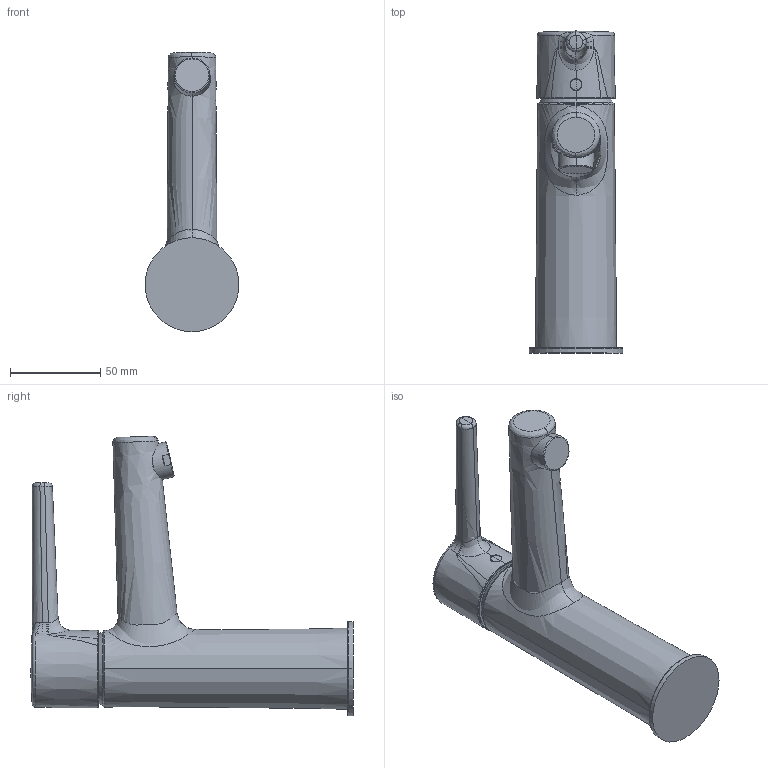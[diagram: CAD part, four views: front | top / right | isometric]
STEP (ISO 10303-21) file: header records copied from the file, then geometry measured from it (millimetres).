
FILE_DESCRIPTION((''),'2;1');
FILE_NAME('509435_S','2020-04-30T10:32:04',('DB991'),(''),'CREO PARAMETRIC BY PTC INC, 2018500','CREO PARAMETRIC BY PTC INC, 2018500','');
FILE_SCHEMA(('CONFIG_CONTROL_DESIGN'));
Length unit declared in the file: millimetre
Products named in the file (1): 509435_S
Bounding box: 52 x 178.33 x 154.59 mm (x, y, z)
Volume: 347398.3 mm3; surface area: 42162.8 mm2
Topology: 1 solids, 1 shells, 106 faces, 252 edges, 147 vertices
Faces by surface type: bspline 32, torus 26, cylinder 14, plane 13, cone 13, sphere 8
Entity records: 25790 total; most frequent: CARTESIAN_POINT 23629, ORIENTED_EDGE 490, DIRECTION 367, EDGE_CURVE 245, AXIS2_PLACEMENT_3D 164, VERTEX_POINT 147, B_SPLINE_CURVE_WITH_KNOTS 116, EDGE_LOOP 112
